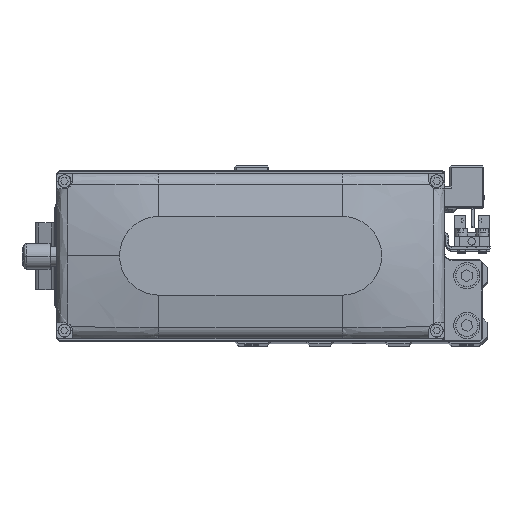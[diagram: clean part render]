
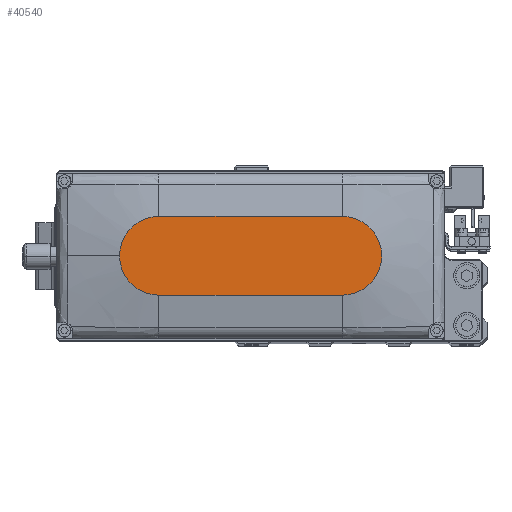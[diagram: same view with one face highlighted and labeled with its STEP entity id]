
A CAD part, top view. The second image highlights one B-rep face of the part: STEP entity #40540.
In plain terms, the highlighted planar face has unit normal (0, 0, 1).
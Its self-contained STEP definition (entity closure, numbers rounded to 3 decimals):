
#477 = VECTOR ( 'NONE', #33278, 1000. ) ;
#1176 = EDGE_LOOP ( 'NONE', ( #7361, #28578, #25905, #27419, #12886 ) ) ;
#1577 = DIRECTION ( 'NONE',  ( 1., 0., 0. ) ) ;
#2997 = AXIS2_PLACEMENT_3D ( 'NONE', #31740, #3431, #16061 ) ;
#3388 = EDGE_CURVE ( 'NONE', #39929, #6280, #35425, .T. ) ;
#3431 = DIRECTION ( 'NONE',  ( 0., 0., 1. ) ) ;
#4381 = CARTESIAN_POINT ( 'NONE',  ( 50., 0., 35. ) ) ;
#5491 = VERTEX_POINT ( 'NONE', #39300 ) ;
#5566 = LINE ( 'NONE', #18182, #21182 ) ;
#6137 = CARTESIAN_POINT ( 'NONE',  ( -35., 15., 35. ) ) ;
#6280 = VERTEX_POINT ( 'NONE', #14237 ) ;
#6550 = FACE_OUTER_BOUND ( 'NONE', #1176, .T. ) ;
#7231 = CARTESIAN_POINT ( 'NONE',  ( 35., -15., 35. ) ) ;
#7361 = ORIENTED_EDGE ( 'NONE', *, *, #38811, .T. ) ;
#7799 = DIRECTION ( 'NONE',  ( 0., 0., 1. ) ) ;
#8119 = LINE ( 'NONE', #20727, #477 ) ;
#10473 = CIRCLE ( 'NONE', #33550, 15. ) ;
#10672 = DIRECTION ( 'NONE',  ( 0., 0., 1. ) ) ;
#12541 = EDGE_CURVE ( 'NONE', #31159, #5491, #36352, .T. ) ;
#12886 = ORIENTED_EDGE ( 'NONE', *, *, #3388, .T. ) ;
#14237 = CARTESIAN_POINT ( 'NONE',  ( 35., 15., 35. ) ) ;
#15523 = EDGE_CURVE ( 'NONE', #36222, #39929, #10473, .T. ) ;
#16061 = DIRECTION ( 'NONE',  ( 1., 0., 0. ) ) ;
#17312 = CARTESIAN_POINT ( 'NONE',  ( -35., 0., 35. ) ) ;
#17663 = AXIS2_PLACEMENT_3D ( 'NONE', #36058, #7799, #20424 ) ;
#18182 = CARTESIAN_POINT ( 'NONE',  ( -35., 15., 35. ) ) ;
#18580 = AXIS2_PLACEMENT_3D ( 'NONE', #17312, #29895, #1577 ) ;
#19170 = PLANE ( 'NONE',  #2997 ) ;
#20424 = DIRECTION ( 'NONE',  ( 1., 0., 0. ) ) ;
#20727 = CARTESIAN_POINT ( 'NONE',  ( -35., -15., 35. ) ) ;
#21182 = VECTOR ( 'NONE', #30754, 1000. ) ;
#23269 = DIRECTION ( 'NONE',  ( 1., 0., 0. ) ) ;
#25905 = ORIENTED_EDGE ( 'NONE', *, *, #35813, .T. ) ;
#27419 = ORIENTED_EDGE ( 'NONE', *, *, #15523, .T. ) ;
#28578 = ORIENTED_EDGE ( 'NONE', *, *, #12541, .T. ) ;
#29895 = DIRECTION ( 'NONE',  ( 0., 0., 1. ) ) ;
#30754 = DIRECTION ( 'NONE',  ( -1., 0., 0. ) ) ;
#31159 = VERTEX_POINT ( 'NONE', #6137 ) ;
#31740 = CARTESIAN_POINT ( 'NONE',  ( 0., 0., 35. ) ) ;
#33278 = DIRECTION ( 'NONE',  ( 1., 0., 0. ) ) ;
#33550 = AXIS2_PLACEMENT_3D ( 'NONE', #38949, #10672, #23269 ) ;
#35425 = CIRCLE ( 'NONE', #17663, 15. ) ;
#35813 = EDGE_CURVE ( 'NONE', #5491, #36222, #8119, .T. ) ;
#36058 = CARTESIAN_POINT ( 'NONE',  ( 35., 0., 35. ) ) ;
#36222 = VERTEX_POINT ( 'NONE', #7231 ) ;
#36352 = CIRCLE ( 'NONE', #18580, 15. ) ;
#38811 = EDGE_CURVE ( 'NONE', #6280, #31159, #5566, .T. ) ;
#38949 = CARTESIAN_POINT ( 'NONE',  ( 35., 0., 35. ) ) ;
#39300 = CARTESIAN_POINT ( 'NONE',  ( -35., -15., 35. ) ) ;
#39929 = VERTEX_POINT ( 'NONE', #4381 ) ;
#40540 = ADVANCED_FACE ( 'NONE', ( #6550 ), #19170, .T. ) ;
